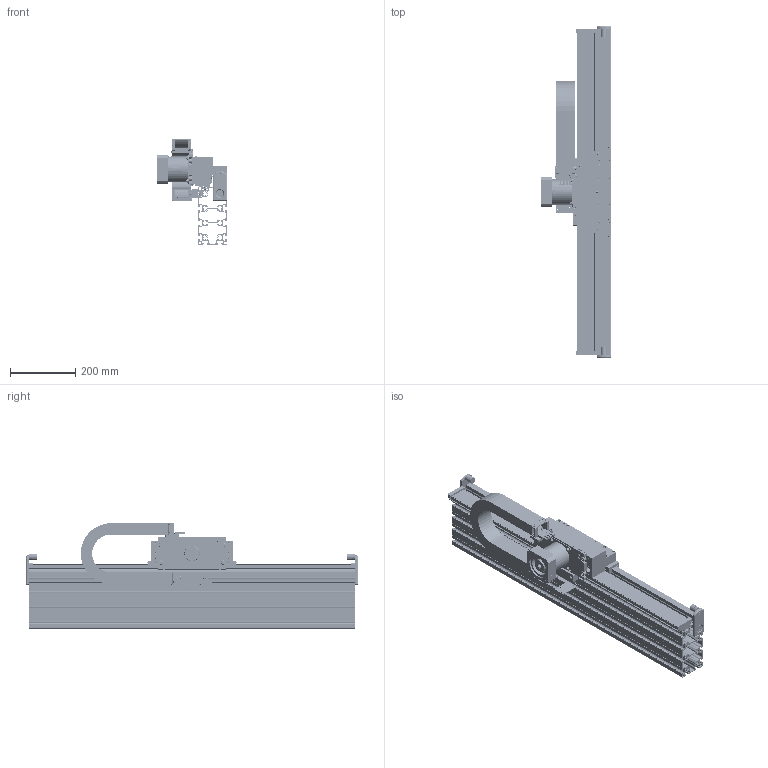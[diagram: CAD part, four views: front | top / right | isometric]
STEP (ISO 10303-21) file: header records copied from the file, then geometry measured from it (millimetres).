
FILE_DESCRIPTION( ( '' ), ' ' );
FILE_NAME( '/vol/tmp/translate-5726476098994458440/5c7eaeb2f1d82d17f48df294.step', '2019-03-05T17:15:31', ( '' ), ( '' ), ' ', ' ', ' ' );
FILE_SCHEMA( ( 'AUTOMOTIVE_DESIGN { 1 0 10303 214 1 1 1 1 }' ) );
Length unit declared in the file: metre
Products named in the file (92): FASTENERS <3>; 100001-073 M6 X 12 SS SHCS; 102811-002 M6 T-NUT; RAIL FASTENERS <17>; 102684-001 BOSCH 10mm T-BLOCK M5; 20mm BEARING RAIL CAP; 100001-8065 M5-.80 X 25 ALLOY SHCS; RAIL FASTENERS <4>; RAIL FASTENERS <7>; RAIL FASTENERS <16>; RAIL FASTENERS <1>; FASTENERS <5>; RAIL FASTENERS <11>; RAIL FASTENERS <8>; RAIL FASTENERS <5>; RAIL FASTENERS <15>; RAIL FASTENERS <14>; FASTENERS <1>; FASTENERS <2>; RAIL FASTENERS <6>; RAIL FASTENERS <9>; RAIL FASTENERS <12>; RAIL FASTENERS <13>; RAIL FASTENERS <3>; RAIL FASTENERS <10>; RAIL FASTENERS <2>; FASTENERS <4>; IGUS E6-29-040 END BRACKET (1) <2>; iguse6-29-040-1; iguse6-29-040-3(Default); iguse6-29-040-2; iguse6-29-040-4(Default); TRAY <1>; 104481-1000 SBL-H BELT TRAY; 102610-006 VHB TAPE 50mm; 103072-001 T10 X 50mm BELTING; PLQE080-005-TEKNIC34 & PINION <1>; PLQE080-005-TEKNIC34; 100013-079 M5 X 10 SS SET SCREW; 103795-008 SBL-H PINION 20mm BORE 6mm KEY LOCK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
Assembly tree (211 placements, depth 5):
  Assem1
    E6-29-40 LINKS
    103072-001 T10 X 50mm BELTING
    PLQE080-005-TEKNIC34 MOUNT <1>
      100011-8047 M6-1.0 X 20 ALLOY FHCS  x4
      100003-006 M8 SS F/W  x4
      100001-086 M8-1.25 X 20 SS SHCS  x4
      100007-001 M6 SS HEX NUT  x4
      105326-006 SBL-H NEUGART GEARBOX MOTOR MOUNT PLATE
      100013-072 M6 X 12 SS SET SCREW  x2
      PLQE080-005-TEKNIC34 & PINION <1>
        PLQE080-005-TEKNIC34
        100013-079 M5 X 10 SS SET SCREW  x2
        103795-008 SBL-H PINION 20mm BORE 6mm KEY LOCK
    LEFT <1>
      100011-XXX M6-1.0 X 14 SS FHCS  x2
      104453-update SBL-H UPPER E-CHAIN BRACKET(Default)
      100001-074 M6-1.0 X 16 SS  SHCS
      100006-028 M6-1.0 X 12 SS BHCS
      100001-052 M4-.70 X 12 SS SHCS  x2
      103862 IGUS 2030-ZB TIE WRAP PLATE
      IGUS E6-29-040 END BRACKET (1) <1>
        iguse6-29-040-1
        iguse6-29-040-3(Default)
        iguse6-29-040-2
        iguse6-29-040-4(Default)
    1000 CHASSIS <1>
      102927-1000  90-SERIES PROFILE 90X180
      RAIL <1>
        102732-990 20mm STANDARD GUIDE RAIL
        106888-001 20mm RAIL COVER
        RAIL FASTENERS <13>
          20mm BEARING RAIL CAP
          102684-001 BOSCH 10mm T-BLOCK M5
          100001-8065 M5-.80 X 25 ALLOY SHCS
        RAIL FASTENERS <12>
          100001-8065 M5-.80 X 25 ALLOY SHCS
          20mm BEARING RAIL CAP
          102684-001 BOSCH 10mm T-BLOCK M5
        RAIL FASTENERS <1>
          102684-001 BOSCH 10mm T-BLOCK M5
          100001-8065 M5-.80 X 25 ALLOY SHCS
          20mm BEARING RAIL CAP
        RAIL FASTENERS <9>
          102684-001 BOSCH 10mm T-BLOCK M5
          100001-8065 M5-.80 X 25 ALLOY SHCS
          20mm BEARING RAIL CAP
        RAIL FASTENERS <3>
          20mm BEARING RAIL CAP
          102684-001 BOSCH 10mm T-BLOCK M5
          100001-8065 M5-.80 X 25 ALLOY SHCS
        RAIL FASTENERS <6>
          20mm BEARING RAIL CAP
          100001-8065 M5-.80 X 25 ALLOY SHCS
          102684-001 BOSCH 10mm T-BLOCK M5
        RAIL FASTENERS <4>
          20mm BEARING RAIL CAP
          100001-8065 M5-.80 X 25 ALLOY SHCS
          102684-001 BOSCH 10mm T-BLOCK M5
        RAIL FASTENERS <7>
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Bounding box: 216.12 x 1019.05 x 324.79 mm (x, y, z)
Volume: 8284662.6 mm3; surface area: 4011366.6 mm2
Topology: 174 solids, 175 shells, 5100 faces, 13271 edges, 8750 vertices
Faces by surface type: plane 3079, cylinder 1635, cone 290, torus 83, sphere 9, bspline 4
Full cylindrical faces by diameter (mm): 2.5 x24, 2.54 x2, 2.6 x4, 2.66 x4, 3 x8, 3.3 x2, 3.6 x2, 3.988 x6, 4 x4, 4.2 x8, 4.216 x16, 4.5 x14, 5 x51, 5.004 x27, 5.1 x1, 5.105 x2, 5.5 x19, 5.8 x8, 5.867 x2, 5.994 x15, 6 x26, 6.2 x4, 6.4 x1, 6.5 x6, 6.6 x5, 6.8 x6, 6.858 x2, 7 x6, 7.112 x5, 7.5 x8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
Entity records: 120961 total; most frequent: CARTESIAN_POINT 18901, DIRECTION 16527, ORIENTED_EDGE 15328, EDGE_CURVE 7664, AXIS2_PLACEMENT_3D 5769, VERTEX_POINT 5321, LINE 4989, VECTOR 4989
